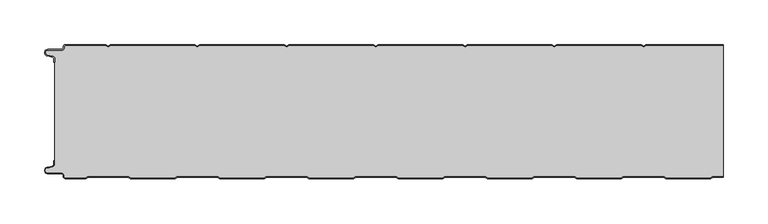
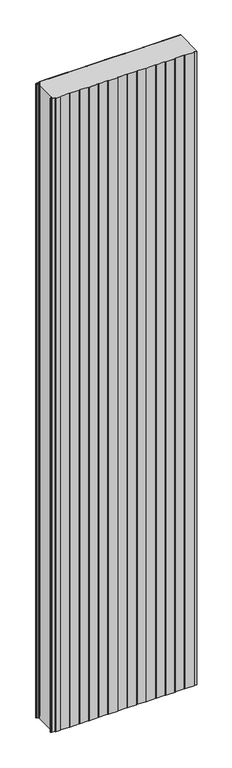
"""IFC4 building model written with IfcOpenShell, lengths in millimetres: plate geometry, PM1_Curtain-Panel_Perfil-Estándar : ACH_PM1_Panel-Acústico-Sectorización_150M."""

from ifc_helpers import new_model, si_unit, point, frame_2d, origin, origin_with_axes, place, context, project, spatial, polyline, circle_curve, trimmed, segment, composite_curve, outline, extrude, source, transform, mapped, element, save


def plate_9f690ffb(model_context):
    return source(origin(), model_context, "Body", "SweptSolid", [
        extrude(outline(composite_curve([segment(trimmed(circle_curve(frame_2d((-377.0, -15.878557)), 2.0), [point((-375.0, -15.878557))], [point((-376.5500978, -13.9298169))], True, "CARTESIAN"), True, "CONTINUOUS"), segment(polyline([(-376.5500978, -13.9298169), (-382.7098239, -12.507732)]), True, "CONTINUOUS"), segment(trimmed(circle_curve(frame_2d((-381.9, -9.0)), 3.6), [point((-382.7098239, -12.507732))], [point((-381.9, -5.4))], False, "CARTESIAN"), True, "CONTINUOUS"), segment(polyline([(-381.9, -5.4), (-366.4, -5.4)]), True, "CONTINUOUS"), segment(trimmed(circle_curve(frame_2d((-366.4, -3.4)), 2.0), [point((-366.4, -5.4))], [point((-364.4, -3.4))], True, "CARTESIAN"), True, "CONTINUOUS"), segment(polyline([(-364.4, -3.4), (-364.4, -2.0)]), True, "CONTINUOUS"), segment(trimmed(circle_curve(frame_2d((-362.4, -2.0)), 2.0), [point((-364.4, -2.0))], [point((-362.4, 0.0))], False, "CARTESIAN"), True, "CONTINUOUS"), segment(polyline([(-362.4, 0.0), (-317.0999995, 0.0), (-314.4, -1.5588455), (-311.7000005, 0.0), (-217.0999995, 0.0), (-214.4, -1.5588455), (-211.7000005, 0.0), (-117.0999995, 0.0), (-114.4, -1.5588455), (-111.7000005, 0.0), (-17.0999995, 0.0), (-14.4, -1.5588455), (-11.7000005, 0.0), (82.9000005, 0.0), (85.6, -1.5588455), (88.2999995, 0.0), (182.9000005, 0.0), (185.6, -1.5588455), (188.2999995, 0.0), (282.9000005, 0.0), (285.6, -1.5588455), (288.2999995, 0.0), (375.0, 0.0), (375.0, -0.8), (288.5143588, -0.8), (285.6, -2.482606), (282.6856412, -0.8), (188.5143588, -0.8), (185.6, -2.482606), (182.6856412, -0.8), (88.5143588, -0.8), (85.6, -2.482606), (82.6856412, -0.8), (-11.4856412, -0.8), (-14.4, -2.482606), (-17.3143588, -0.8), (-111.4856412, -0.8), (-114.4, -2.482606), (-117.3143588, -0.8), (-211.4856412, -0.8), (-214.4, -2.482606), (-217.3143588, -0.8), (-311.4856412, -0.8), (-314.4, -2.482606), (-317.3143588, -0.8), (-362.4, -0.8)]), True, "CONTINUOUS"), segment(trimmed(circle_curve(frame_2d((-362.4, -2.0)), 1.2), [point((-362.4, -0.8))], [point((-363.6, -2.0))], True, "CARTESIAN"), True, "CONTINUOUS"), segment(polyline([(-363.6, -2.0), (-363.6, -3.4)]), True, "CONTINUOUS"), segment(trimmed(circle_curve(frame_2d((-366.4, -3.4)), 2.8), [point((-363.6, -3.4))], [point((-366.4, -6.2))], False, "CARTESIAN"), True, "CONTINUOUS"), segment(polyline([(-366.4, -6.2), (-381.9, -6.2)]), True, "CONTINUOUS"), segment(trimmed(circle_curve(frame_2d((-381.9, -9.0)), 2.8), [point((-381.9, -6.2))], [point((-382.529863, -11.7282362))], True, "CARTESIAN"), True, "CONTINUOUS"), segment(polyline([(-382.529863, -11.7282362), (-376.370137, -13.150321)]), True, "CONTINUOUS"), segment(trimmed(circle_curve(frame_2d((-377.0, -15.878557)), 2.8), [point((-376.370137, -13.150321))], [point((-374.2, -15.878557))], False, "CARTESIAN"), True, "CONTINUOUS"), segment(polyline([(-374.2, -15.878557), (-374.2, -20.0), (-375.0, -20.0), (-375.0, -15.878557)]), True, "CONTINUOUS")], self_intersect=False)), origin_with_axes(), (0.0, 0.0, 1.0), 3500.0),
        extrude(outline(composite_curve([segment(polyline([(-374.2, -134.121443), (-374.2, -15.8785573)]), True, "CONTINUOUS"), segment(trimmed(circle_curve(frame_2d((-377.0, -15.8785573)), 2.8), [point((-374.2, -15.8785573))], [point((-376.370137, -13.1503212))], True, "CARTESIAN"), True, "CONTINUOUS"), segment(polyline([(-376.370137, -13.1503212), (-382.5298631, -11.7282362)]), True, "CONTINUOUS"), segment(trimmed(circle_curve(frame_2d((-381.9, -9.0)), 2.8), [point((-382.5298631, -11.7282362))], [point((-381.9, -6.2))], False, "CARTESIAN"), True, "CONTINUOUS"), segment(polyline([(-381.9, -6.2), (-366.4000001, -6.2)]), True, "CONTINUOUS"), segment(trimmed(circle_curve(frame_2d((-366.4000001, -3.4)), 2.8), [point((-366.4000001, -6.2))], [point((-363.6000001, -3.4))], True, "CARTESIAN"), True, "CONTINUOUS"), segment(polyline([(-363.6000001, -3.4), (-363.6000001, -2.0)]), True, "CONTINUOUS"), segment(trimmed(circle_curve(frame_2d((-362.4000001, -2.0)), 1.2), [point((-363.6000001, -2.0))], [point((-362.4000001, -0.8))], False, "CARTESIAN"), True, "CONTINUOUS"), segment(polyline([(-362.4000001, -0.8), (-317.3143589, -0.8), (-314.4000001, -2.482606), (-311.4856412, -0.8), (-217.3143589, -0.8), (-214.4000001, -2.482606), (-211.4856412, -0.8), (-117.3143589, -0.8), (-114.4000001, -2.482606), (-111.4856412, -0.8), (-17.3143589, -0.8), (-14.4000001, -2.482606), (-11.4856412, -0.8), (82.6856411, -0.8), (85.5999999, -2.482606), (88.5143588, -0.8), (182.6856411, -0.8), (185.5999999, -2.482606), (188.5143588, -0.8), (282.6856411, -0.8), (285.5999999, -2.482606), (288.5143588, -0.8), (375.0, -0.8), (375.0, -147.7), (362.9837184, -147.7), (360.3856408, -149.2), (310.8105122, -149.2), (308.2124346, -147.7), (262.9837184, -147.7), (260.3856408, -149.2), (210.8105122, -149.2), (208.2124346, -147.7), (162.9837184, -147.7), (160.3856408, -149.2), (110.8105122, -149.2), (108.2124346, -147.7), (62.9837184, -147.7), (60.3856408, -149.2), (10.8105122, -149.2), (8.2124346, -147.7), (-37.0162816, -147.7), (-39.6143592, -149.2), (-89.1894878, -149.2), (-91.7875654, -147.7), (-137.0162816, -147.7), (-139.6143592, -149.2), (-189.1894878, -149.2), (-191.7875654, -147.7), (-237.0162816, -147.7), (-239.6143592, -149.2), (-289.1894878, -149.2), (-291.7875654, -147.7), (-337.0162816, -147.7), (-339.6143592, -149.2), (-362.4, -149.2)]), True, "CONTINUOUS"), segment(trimmed(circle_curve(frame_2d((-362.4, -148.0)), 1.2), [point((-362.4, -149.2))], [point((-363.6, -148.0))], False, "CARTESIAN"), True, "CONTINUOUS"), segment(polyline([(-363.6, -148.0), (-363.6, -146.5999998)]), True, "CONTINUOUS"), segment(trimmed(circle_curve(frame_2d((-366.4, -146.5999998)), 2.8), [point((-363.6, -146.5999998))], [point((-366.4, -143.7999998))], True, "CARTESIAN"), True, "CONTINUOUS"), segment(polyline([(-366.4, -143.7999998), (-381.9, -143.7999998)]), True, "CONTINUOUS"), segment(trimmed(circle_curve(frame_2d((-381.9, -141.0)), 2.7999998), [point((-381.9, -143.7999998))], [point((-382.529863, -138.271764))], False, "CARTESIAN"), True, "CONTINUOUS"), segment(polyline([(-382.529863, -138.271764), (-376.370137, -136.8496792)]), True, "CONTINUOUS"), segment(trimmed(circle_curve(frame_2d((-377.0, -134.121443)), 2.8), [point((-376.370137, -136.8496792))], [point((-374.2, -134.121443))], True, "CARTESIAN"), True, "CONTINUOUS")], self_intersect=False)), origin_with_axes(), (0.0, 0.0, 1.0), 3500.0),
        extrude(outline(composite_curve([segment(trimmed(circle_curve(frame_2d((-362.4, -148.0)), 2.0), [point((-362.4, -150.0))], [point((-364.4, -148.0))], False, "CARTESIAN"), True, "CONTINUOUS"), segment(polyline([(-364.4, -148.0), (-364.4, -146.6)]), True, "CONTINUOUS"), segment(trimmed(circle_curve(frame_2d((-366.4, -146.6)), 2.0), [point((-364.4, -146.6))], [point((-366.4, -144.6))], True, "CARTESIAN"), True, "CONTINUOUS"), segment(polyline([(-366.4, -144.6), (-381.9, -144.6)]), True, "CONTINUOUS"), segment(trimmed(circle_curve(frame_2d((-381.9, -141.0)), 3.6), [point((-381.9, -144.6))], [point((-382.7098239, -137.4922678))], False, "CARTESIAN"), True, "CONTINUOUS"), segment(polyline([(-382.7098239, -137.4922678), (-376.5500979, -136.070183)]), True, "CONTINUOUS"), segment(trimmed(circle_curve(frame_2d((-377.0, -134.121443)), 2.0), [point((-376.5500979, -136.070183))], [point((-375.0, -134.121443))], True, "CARTESIAN"), True, "CONTINUOUS"), segment(polyline([(-375.0, -134.121443), (-375.0, -130.0), (-374.2, -130.0), (-374.2, -134.121443)]), True, "CONTINUOUS"), segment(trimmed(circle_curve(frame_2d((-377.0, -134.121443)), 2.8), [point((-374.2, -134.121443))], [point((-376.370137, -136.8496792))], False, "CARTESIAN"), True, "CONTINUOUS"), segment(polyline([(-376.370137, -136.8496792), (-382.529863, -138.271764)]), True, "CONTINUOUS"), segment(trimmed(circle_curve(frame_2d((-381.9, -141.0)), 2.8), [point((-382.529863, -138.271764))], [point((-381.9, -143.8))], True, "CARTESIAN"), True, "CONTINUOUS"), segment(polyline([(-381.9, -143.8), (-366.4, -143.8)]), True, "CONTINUOUS"), segment(trimmed(circle_curve(frame_2d((-366.4, -146.6)), 2.8), [point((-366.4, -143.8))], [point((-363.6, -146.6))], False, "CARTESIAN"), True, "CONTINUOUS"), segment(polyline([(-363.6, -146.6), (-363.6, -148.0)]), True, "CONTINUOUS"), segment(trimmed(circle_curve(frame_2d((-362.4, -148.0)), 1.2), [point((-363.6, -148.0))], [point((-362.4, -149.2))], True, "CARTESIAN"), True, "CONTINUOUS"), segment(polyline([(-362.4, -149.2), (-339.6143592, -149.2), (-337.0162816, -147.7), (-291.7875654, -147.7), (-289.1894878, -149.2), (-239.6143592, -149.2), (-237.0162816, -147.7), (-191.7875654, -147.7), (-189.1894878, -149.2), (-139.6143592, -149.2), (-137.0162816, -147.7), (-91.7875654, -147.7), (-89.1894878, -149.2), (-39.6143592, -149.2), (-37.0162816, -147.7), (8.2124346, -147.7), (10.8105122, -149.2), (60.3856408, -149.2), (62.9837184, -147.7), (108.2124346, -147.7), (110.8105122, -149.2), (160.3856408, -149.2), (162.9837184, -147.7), (208.2124346, -147.7), (210.8105122, -149.2), (260.3856408, -149.2), (262.9837184, -147.7), (308.2124346, -147.7), (310.8105122, -149.2), (360.3856408, -149.2), (362.9837184, -147.7), (375.0, -147.7), (375.0, -148.5), (363.1980777, -148.5), (360.6000001, -150.0), (310.5961529, -150.0), (307.9980753, -148.5), (263.1980777, -148.5), (260.6000001, -150.0), (210.5961529, -150.0), (207.9980753, -148.5), (163.1980777, -148.5), (160.6000001, -150.0), (110.5961529, -150.0), (107.9980753, -148.5), (63.1980777, -148.5), (60.6000001, -150.0), (10.5961529, -150.0), (7.9980753, -148.5), (-36.8019223, -148.5), (-39.3999999, -150.0), (-89.4038471, -150.0), (-92.0019247, -148.5), (-136.8019223, -148.5), (-139.3999999, -150.0), (-189.4038471, -150.0), (-192.0019247, -148.5), (-236.8019223, -148.5), (-239.3999999, -150.0), (-289.4038471, -150.0), (-292.0019247, -148.5), (-336.8019223, -148.5), (-339.3999999, -150.0), (-362.4, -150.0)]), True, "CONTINUOUS")], self_intersect=False)), origin_with_axes(), (0.0, 0.0, 1.0), 3500.0),
    ])


if __name__ == "__main__":
    model = new_model("IFC4")
    model_context = context("Model", 3, world=origin())
    ifc_project = project(units=[si_unit("LENGTHUNIT", "METRE", prefix="MILLI")], contexts=[model_context])
    site = spatial("IfcSite", under=ifc_project)
    building = spatial("IfcBuilding", under=site)
    placement = place(None, origin())
    plate_shape = plate_9f690ffb(model_context)
    element("IfcPlate", 1, ObjectType="PM1_Curtain-Panel_Perfil-Estándar : ACH_PM1_Panel-Acústico-Sectorización_150M", at=placement, inside=building, context=model_context, shape_type="MappedRepresentation", body=[
        mapped(plate_shape, transform((0.0, 0.0, 0.0), x_axis=(1.0, 0.0, 0.0), y_axis=(0.0, 1.0, 0.0), z_axis=(0.0, 0.0, 1.0))),
    ])
    save(model, "model.ifc")
